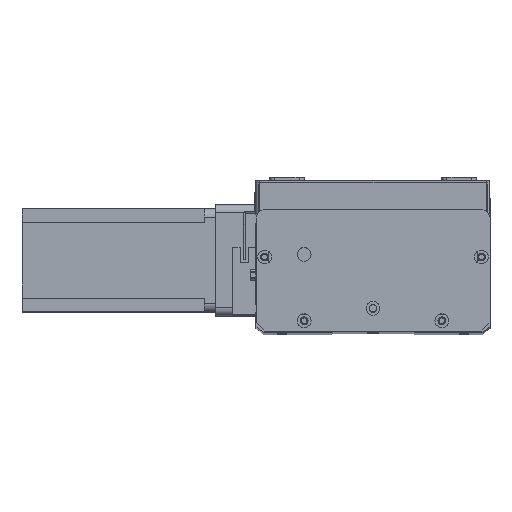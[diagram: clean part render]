
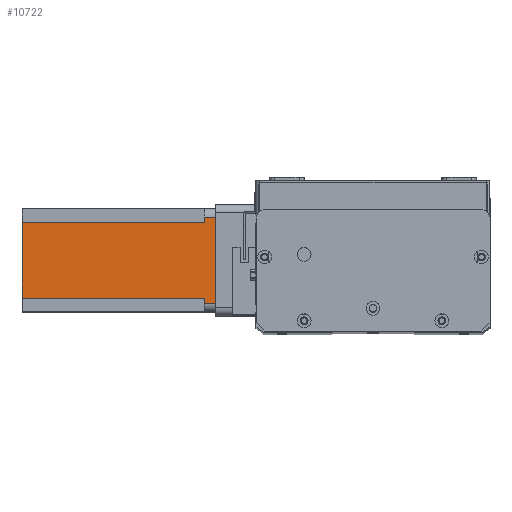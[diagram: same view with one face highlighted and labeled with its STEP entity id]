
A CAD part, top view. The second image highlights one B-rep face of the part: STEP entity #10722.
In plain terms, the highlighted planar face has unit normal (0, 0, 1) as drawn and (0, -1, 0) by its records, which use the part's own axes.
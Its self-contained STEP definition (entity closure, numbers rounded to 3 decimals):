
#83 = CARTESIAN_POINT ( 'NONE',  ( 8., 0., -112.5 ) ) ;
#444 = VECTOR ( 'NONE', #22888, 1000. ) ;
#1426 = LINE ( 'NONE', #11968, #21685 ) ;
#1429 = DIRECTION ( 'NONE',  ( 1., 0., 0. ) ) ;
#2130 = VERTEX_POINT ( 'NONE', #9988 ) ;
#2416 = CARTESIAN_POINT ( 'NONE',  ( 5., 0., 0. ) ) ;
#2678 = EDGE_CURVE ( 'NONE', #13324, #3365, #18101, .T. ) ;
#3365 = VERTEX_POINT ( 'NONE', #10651 ) ;
#3415 = CARTESIAN_POINT ( 'NONE',  ( 0., 0., 0. ) ) ;
#3684 = EDGE_CURVE ( 'NONE', #17259, #2130, #18985, .T. ) ;
#3858 = FACE_OUTER_BOUND ( 'NONE', #14255, .T. ) ;
#3893 = ORIENTED_EDGE ( 'NONE', *, *, #21250, .F. ) ;
#4031 = VERTEX_POINT ( 'NONE', #5164 ) ;
#5164 = CARTESIAN_POINT ( 'NONE',  ( 8., 0., -112.5 ) ) ;
#5246 = VERTEX_POINT ( 'NONE', #12804 ) ;
#5366 = DIRECTION ( 'NONE',  ( 0., 0., -1. ) ) ;
#5423 = ORIENTED_EDGE ( 'NONE', *, *, #3684, .F. ) ;
#5506 = LINE ( 'NONE', #6505, #15327 ) ;
#6023 = DIRECTION ( 'NONE',  ( 1., 0., 0. ) ) ;
#6505 = CARTESIAN_POINT ( 'NONE',  ( 52., 0., -112.5 ) ) ;
#7139 = LINE ( 'NONE', #19959, #16329 ) ;
#8135 = EDGE_CURVE ( 'NONE', #15449, #18785, #13760, .T. ) ;
#8515 = VECTOR ( 'NONE', #25454, 1000. ) ;
#9749 = CARTESIAN_POINT ( 'NONE',  ( 55., 0., 0. ) ) ;
#9781 = VECTOR ( 'NONE', #11204, 1000. ) ;
#9988 = CARTESIAN_POINT ( 'NONE',  ( 5., 0., -6.5 ) ) ;
#10418 = CARTESIAN_POINT ( 'NONE',  ( 8., 0., -6.5 ) ) ;
#10651 = CARTESIAN_POINT ( 'NONE',  ( 55., 0., -6.5 ) ) ;
#10722 = ADVANCED_FACE ( 'NONE', ( #3858 ), #19025, .T. ) ;
#11186 = CARTESIAN_POINT ( 'NONE',  ( 52., 0., -6.5 ) ) ;
#11204 = DIRECTION ( 'NONE',  ( 1., 0., 0. ) ) ;
#11328 = EDGE_CURVE ( 'NONE', #15449, #2130, #15469, .T. ) ;
#11968 = CARTESIAN_POINT ( 'NONE',  ( 0., 0., -112.5 ) ) ;
#12457 = EDGE_CURVE ( 'NONE', #3365, #18785, #7139, .T. ) ;
#12736 = ORIENTED_EDGE ( 'NONE', *, *, #12457, .T. ) ;
#12804 = CARTESIAN_POINT ( 'NONE',  ( 52., 0., -112.5 ) ) ;
#13286 = LINE ( 'NONE', #83, #16656 ) ;
#13324 = VERTEX_POINT ( 'NONE', #16932 ) ;
#13760 = LINE ( 'NONE', #3415, #9781 ) ;
#14255 = EDGE_LOOP ( 'NONE', ( #23864, #12736, #19650, #22009, #5423, #3893, #23195, #25446 ) ) ;
#15327 = VECTOR ( 'NONE', #20247, 1000. ) ;
#15449 = VERTEX_POINT ( 'NONE', #2416 ) ;
#15469 = LINE ( 'NONE', #17010, #444 ) ;
#16253 = VECTOR ( 'NONE', #1429, 1000. ) ;
#16329 = VECTOR ( 'NONE', #21952, 1000. ) ;
#16584 = AXIS2_PLACEMENT_3D ( 'NONE', #23008, #17130, #5366 ) ;
#16656 = VECTOR ( 'NONE', #19698, 1000. ) ;
#16932 = CARTESIAN_POINT ( 'NONE',  ( 52., 0., -6.5 ) ) ;
#17010 = CARTESIAN_POINT ( 'NONE',  ( 5., 0., -112.5 ) ) ;
#17102 = EDGE_CURVE ( 'NONE', #4031, #5246, #1426, .T. ) ;
#17130 = DIRECTION ( 'NONE',  ( 0., -1., 0. ) ) ;
#17259 = VERTEX_POINT ( 'NONE', #10418 ) ;
#18101 = LINE ( 'NONE', #11186, #16253 ) ;
#18785 = VERTEX_POINT ( 'NONE', #9749 ) ;
#18985 = LINE ( 'NONE', #19488, #8515 ) ;
#19025 = PLANE ( 'NONE',  #16584 ) ;
#19488 = CARTESIAN_POINT ( 'NONE',  ( 8., 0., -6.5 ) ) ;
#19650 = ORIENTED_EDGE ( 'NONE', *, *, #8135, .F. ) ;
#19698 = DIRECTION ( 'NONE',  ( 0., 0., 1. ) ) ;
#19959 = CARTESIAN_POINT ( 'NONE',  ( 55., 0., -112.5 ) ) ;
#20247 = DIRECTION ( 'NONE',  ( 0., 0., -1. ) ) ;
#21250 = EDGE_CURVE ( 'NONE', #4031, #17259, #13286, .T. ) ;
#21685 = VECTOR ( 'NONE', #6023, 1000. ) ;
#21952 = DIRECTION ( 'NONE',  ( 0., 0., 1. ) ) ;
#22009 = ORIENTED_EDGE ( 'NONE', *, *, #11328, .T. ) ;
#22888 = DIRECTION ( 'NONE',  ( 0., 0., -1. ) ) ;
#23008 = CARTESIAN_POINT ( 'NONE',  ( 0., 0., -112.5 ) ) ;
#23195 = ORIENTED_EDGE ( 'NONE', *, *, #17102, .T. ) ;
#23315 = EDGE_CURVE ( 'NONE', #13324, #5246, #5506, .T. ) ;
#23864 = ORIENTED_EDGE ( 'NONE', *, *, #2678, .T. ) ;
#25446 = ORIENTED_EDGE ( 'NONE', *, *, #23315, .F. ) ;
#25454 = DIRECTION ( 'NONE',  ( -1., 0., 0. ) ) ;
